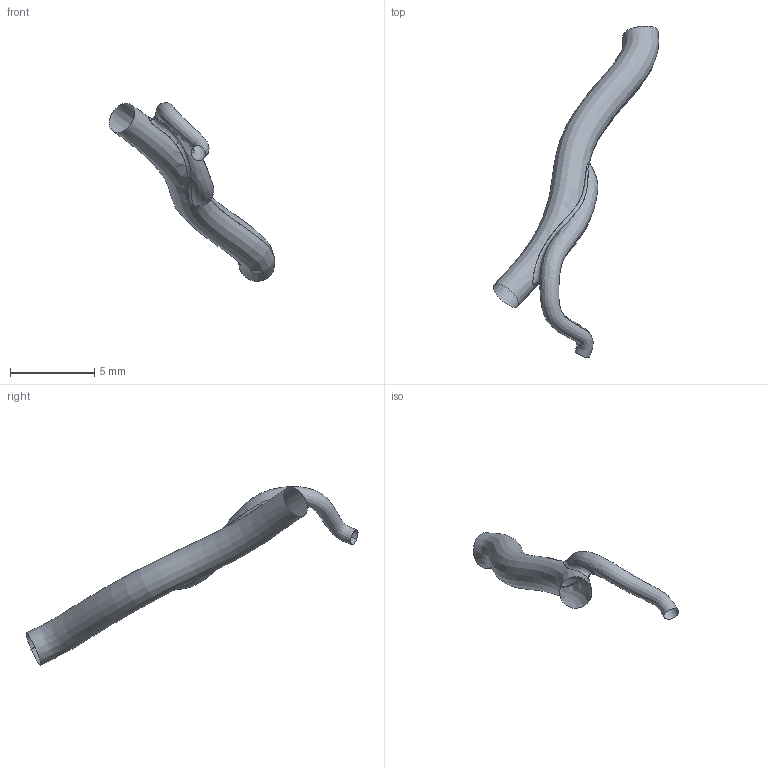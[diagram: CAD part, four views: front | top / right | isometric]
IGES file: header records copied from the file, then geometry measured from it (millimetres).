
Global section: file name: C:\Documents and Settings\Administrator\Desktop\FDA-Pig\Domestic RCA\Pig_000004\rv.es.igs; native system: Rhinoceros ( May 19 2006 ); preprocessor: Trout Lake IGES 012 May 19 2006; date: 111205.185045; units: centimetre
Bounding box: 9.85 x 19.74 x 10.62 mm (x, y, z)
Surface area: 163.5 mm2 (no closed solid volume)
Topology: 0 solids, 0 shells, 5 faces, 83 edges, 82 vertices
Faces by surface type: bspline 5
